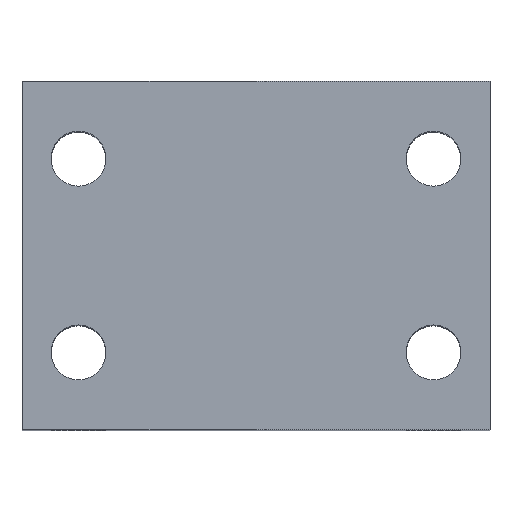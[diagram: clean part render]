
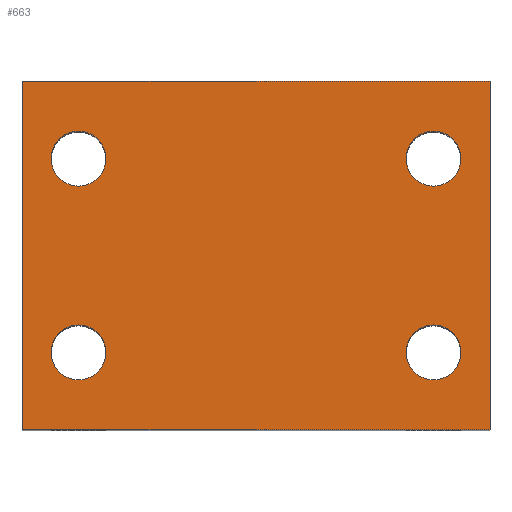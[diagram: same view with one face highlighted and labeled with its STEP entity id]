
A CAD part, top view. The second image highlights one B-rep face of the part: STEP entity #663.
In plain terms, the highlighted planar face has unit normal (0, 0, 1).
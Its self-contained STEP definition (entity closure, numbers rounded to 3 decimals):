
#6 = EDGE_CURVE ( 'NONE', #2352, #13386, #1556, .T. ) ;
#424 = AXIS2_PLACEMENT_3D ( 'NONE', #5199, #14162, #6557 ) ;
#663 = ADVANCED_FACE ( 'NONE', ( #16643, #10132, #13121, #9752, #6404 ), #10154, .F. ) ;
#692 = CARTESIAN_POINT ( 'NONE',  ( 72.5, 108., 50. ) ) ;
#820 = DIRECTION ( 'NONE',  ( 0., 0., -1. ) ) ;
#840 = EDGE_LOOP ( 'NONE', ( #5261, #12501 ) ) ;
#888 = DIRECTION ( 'NONE',  ( -1., 0., 0. ) ) ;
#965 = VERTEX_POINT ( 'NONE', #2332 ) ;
#1013 = DIRECTION ( 'NONE',  ( 1., 0., 0. ) ) ;
#1556 = CIRCLE ( 'NONE', #9131, 8.5 ) ;
#1795 = ORIENTED_EDGE ( 'NONE', *, *, #6, .T. ) ;
#2065 = DIRECTION ( 'NONE',  ( 0., -1., 0. ) ) ;
#2332 = CARTESIAN_POINT ( 'NONE',  ( 63.5, 24., 50. ) ) ;
#2346 = LINE ( 'NONE', #4987, #8915 ) ;
#2352 = VERTEX_POINT ( 'NONE', #16130 ) ;
#2437 = DIRECTION ( 'NONE',  ( 0., 0., -1. ) ) ;
#2463 = CARTESIAN_POINT ( 'NONE',  ( 55., 24., 50. ) ) ;
#2469 = DIRECTION ( 'NONE',  ( 0., 0., -1. ) ) ;
#2735 = LINE ( 'NONE', #11091, #5904 ) ;
#3097 = DIRECTION ( 'NONE',  ( 0., 0., -1. ) ) ;
#3483 = CARTESIAN_POINT ( 'NONE',  ( -63.5, 24., 50. ) ) ;
#3806 = DIRECTION ( 'NONE',  ( -1., 0., 0. ) ) ;
#3824 = VECTOR ( 'NONE', #1013, 1000. ) ;
#3905 = EDGE_CURVE ( 'NONE', #10545, #6603, #14119, .T. ) ;
#4397 = ORIENTED_EDGE ( 'NONE', *, *, #6591, .T. ) ;
#4417 = EDGE_CURVE ( 'NONE', #6301, #10545, #2346, .T. ) ;
#4430 = VERTEX_POINT ( 'NONE', #7616 ) ;
#4661 = DIRECTION ( 'NONE',  ( 0., 0., -1. ) ) ;
#4689 = EDGE_CURVE ( 'NONE', #13399, #14025, #7353, .T. ) ;
#4987 = CARTESIAN_POINT ( 'NONE',  ( -72.5, 108., 50. ) ) ;
#5199 = CARTESIAN_POINT ( 'NONE',  ( -55., 84., 50. ) ) ;
#5255 = DIRECTION ( 'NONE',  ( 0., 0., -1. ) ) ;
#5261 = ORIENTED_EDGE ( 'NONE', *, *, #13599, .T. ) ;
#5796 = DIRECTION ( 'NONE',  ( 0., 0., -1. ) ) ;
#5904 = VECTOR ( 'NONE', #6038, 1000. ) ;
#6001 = VERTEX_POINT ( 'NONE', #10735 ) ;
#6038 = DIRECTION ( 'NONE',  ( 1., 0., 0. ) ) ;
#6183 = EDGE_CURVE ( 'NONE', #6301, #6847, #2735, .T. ) ;
#6301 = VERTEX_POINT ( 'NONE', #14269 ) ;
#6344 = DIRECTION ( 'NONE',  ( 0., -1., 0. ) ) ;
#6404 = FACE_OUTER_BOUND ( 'NONE', #15550, .T. ) ;
#6557 = DIRECTION ( 'NONE',  ( -1., 0., 0. ) ) ;
#6591 = EDGE_CURVE ( 'NONE', #14025, #13399, #13252, .T. ) ;
#6603 = VERTEX_POINT ( 'NONE', #8999 ) ;
#6703 = LINE ( 'NONE', #692, #13033 ) ;
#6847 = VERTEX_POINT ( 'NONE', #16035 ) ;
#6924 = AXIS2_PLACEMENT_3D ( 'NONE', #13423, #5796, #14752 ) ;
#7353 = CIRCLE ( 'NONE', #6924, 8.5 ) ;
#7560 = EDGE_CURVE ( 'NONE', #12934, #6001, #8672, .T. ) ;
#7616 = CARTESIAN_POINT ( 'NONE',  ( 46.5, 24., 50. ) ) ;
#7628 = EDGE_LOOP ( 'NONE', ( #1795, #16106 ) ) ;
#7727 = EDGE_CURVE ( 'NONE', #6847, #6603, #6703, .T. ) ;
#7917 = CARTESIAN_POINT ( 'NONE',  ( -46.5, 24., 50. ) ) ;
#8672 = CIRCLE ( 'NONE', #11278, 8.5 ) ;
#8915 = VECTOR ( 'NONE', #6344, 1000. ) ;
#8999 = CARTESIAN_POINT ( 'NONE',  ( 72.5, 0., 50. ) ) ;
#9131 = AXIS2_PLACEMENT_3D ( 'NONE', #16779, #2437, #16810 ) ;
#9169 = ORIENTED_EDGE ( 'NONE', *, *, #3905, .T. ) ;
#9391 = ORIENTED_EDGE ( 'NONE', *, *, #7727, .F. ) ;
#9752 = FACE_BOUND ( 'NONE', #12421, .T. ) ;
#9772 = CIRCLE ( 'NONE', #16565, 8.5 ) ;
#10132 = FACE_BOUND ( 'NONE', #11564, .T. ) ;
#10154 = PLANE ( 'NONE',  #15729 ) ;
#10248 = ORIENTED_EDGE ( 'NONE', *, *, #6183, .F. ) ;
#10265 = CARTESIAN_POINT ( 'NONE',  ( -55., 24., 50. ) ) ;
#10450 = CARTESIAN_POINT ( 'NONE',  ( -46.5, 84., 50. ) ) ;
#10545 = VERTEX_POINT ( 'NONE', #10785 ) ;
#10640 = AXIS2_PLACEMENT_3D ( 'NONE', #2463, #11543, #3806 ) ;
#10735 = CARTESIAN_POINT ( 'NONE',  ( 63.5, 84., 50. ) ) ;
#10785 = CARTESIAN_POINT ( 'NONE',  ( -72.5, 0., 50. ) ) ;
#10859 = CARTESIAN_POINT ( 'NONE',  ( 55., 84., 50. ) ) ;
#11012 = ORIENTED_EDGE ( 'NONE', *, *, #4417, .T. ) ;
#11091 = CARTESIAN_POINT ( 'NONE',  ( -72.5, 108., 50. ) ) ;
#11190 = CIRCLE ( 'NONE', #424, 8.5 ) ;
#11278 = AXIS2_PLACEMENT_3D ( 'NONE', #12912, #5255, #14209 ) ;
#11315 = ORIENTED_EDGE ( 'NONE', *, *, #16298, .T. ) ;
#11543 = DIRECTION ( 'NONE',  ( 0., 0., -1. ) ) ;
#11555 = DIRECTION ( 'NONE',  ( -1., 0., 0. ) ) ;
#11564 = EDGE_LOOP ( 'NONE', ( #4397, #11992 ) ) ;
#11992 = ORIENTED_EDGE ( 'NONE', *, *, #4689, .T. ) ;
#12150 = DIRECTION ( 'NONE',  ( -1., 0., 0. ) ) ;
#12187 = EDGE_CURVE ( 'NONE', #13386, #2352, #11190, .T. ) ;
#12355 = CARTESIAN_POINT ( 'NONE',  ( 55., 24., 50. ) ) ;
#12421 = EDGE_LOOP ( 'NONE', ( #12546, #11315 ) ) ;
#12501 = ORIENTED_EDGE ( 'NONE', *, *, #12858, .T. ) ;
#12546 = ORIENTED_EDGE ( 'NONE', *, *, #7560, .T. ) ;
#12858 = EDGE_CURVE ( 'NONE', #965, #4430, #16252, .T. ) ;
#12912 = CARTESIAN_POINT ( 'NONE',  ( 55., 84., 50. ) ) ;
#12934 = VERTEX_POINT ( 'NONE', #15626 ) ;
#13033 = VECTOR ( 'NONE', #2065, 1000. ) ;
#13121 = FACE_BOUND ( 'NONE', #840, .T. ) ;
#13252 = CIRCLE ( 'NONE', #15387, 8.5 ) ;
#13386 = VERTEX_POINT ( 'NONE', #10450 ) ;
#13399 = VERTEX_POINT ( 'NONE', #7917 ) ;
#13423 = CARTESIAN_POINT ( 'NONE',  ( -55., 24., 50. ) ) ;
#13599 = EDGE_CURVE ( 'NONE', #4430, #965, #16228, .T. ) ;
#13634 = DIRECTION ( 'NONE',  ( -1., 0., 0. ) ) ;
#14025 = VERTEX_POINT ( 'NONE', #3483 ) ;
#14095 = CARTESIAN_POINT ( 'NONE',  ( -72.5, 0., 50. ) ) ;
#14119 = LINE ( 'NONE', #14095, #3824 ) ;
#14162 = DIRECTION ( 'NONE',  ( 0., 0., -1. ) ) ;
#14209 = DIRECTION ( 'NONE',  ( -1., 0., 0. ) ) ;
#14269 = CARTESIAN_POINT ( 'NONE',  ( -72.5, 108., 50. ) ) ;
#14752 = DIRECTION ( 'NONE',  ( -1., 0., 0. ) ) ;
#15387 = AXIS2_PLACEMENT_3D ( 'NONE', #10265, #2469, #11555 ) ;
#15537 = AXIS2_PLACEMENT_3D ( 'NONE', #12355, #4661, #13634 ) ;
#15550 = EDGE_LOOP ( 'NONE', ( #9169, #9391, #10248, #11012 ) ) ;
#15626 = CARTESIAN_POINT ( 'NONE',  ( 46.5, 84., 50. ) ) ;
#15729 = AXIS2_PLACEMENT_3D ( 'NONE', #16528, #820, #888 ) ;
#16035 = CARTESIAN_POINT ( 'NONE',  ( 72.5, 108., 50. ) ) ;
#16106 = ORIENTED_EDGE ( 'NONE', *, *, #12187, .T. ) ;
#16130 = CARTESIAN_POINT ( 'NONE',  ( -63.5, 84., 50. ) ) ;
#16228 = CIRCLE ( 'NONE', #15537, 8.5 ) ;
#16252 = CIRCLE ( 'NONE', #10640, 8.5 ) ;
#16298 = EDGE_CURVE ( 'NONE', #6001, #12934, #9772, .T. ) ;
#16528 = CARTESIAN_POINT ( 'NONE',  ( -72.5, 108., 50. ) ) ;
#16565 = AXIS2_PLACEMENT_3D ( 'NONE', #10859, #3097, #12150 ) ;
#16643 = FACE_BOUND ( 'NONE', #7628, .T. ) ;
#16779 = CARTESIAN_POINT ( 'NONE',  ( -55., 84., 50. ) ) ;
#16810 = DIRECTION ( 'NONE',  ( -1., 0., 0. ) ) ;
